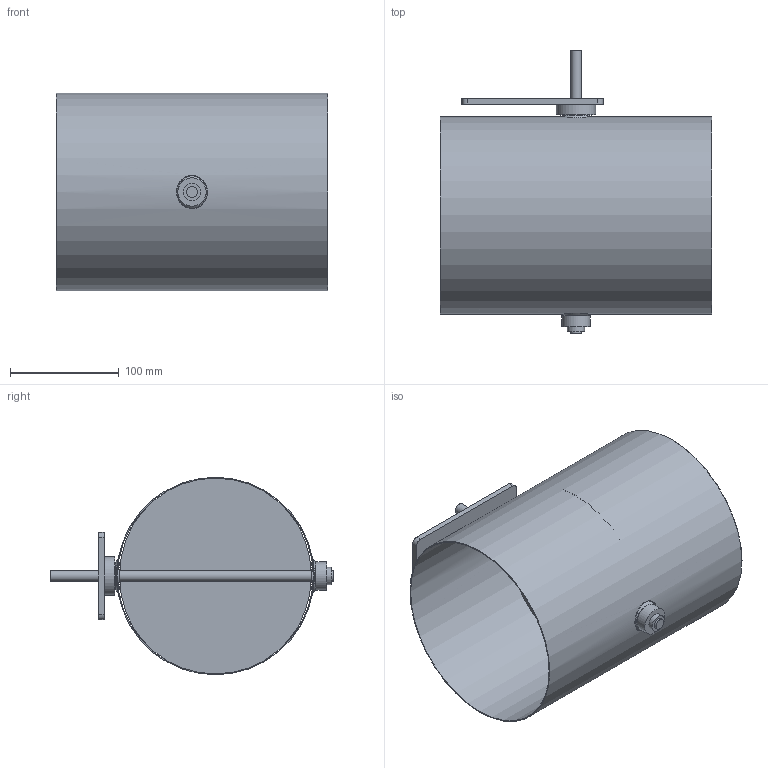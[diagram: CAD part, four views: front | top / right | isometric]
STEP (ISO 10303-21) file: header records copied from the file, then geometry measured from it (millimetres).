
FILE_DESCRIPTION(/* description */ (''),/* implementation_level */ '2;1');
FILE_NAME(/* name */ 'AA126-80B__180_L250_Belimo_Typ_LM.stp',/* time_stamp */ '2017-12-06T14:03:13+01:00',/* author */ (''),/* organization */ (''),/* preprocessor_version */ 'ST-DEVELOPER v11',/* originating_system */ 'SIEMENS UGS NX 6.0',/* authorisation */ '');
FILE_SCHEMA (('CONFIG_CONTROL_DESIGN'));
Length unit declared in the file: millimetre
Products named in the file (1): gars18E2j24f
Bounding box: 250 x 261 x 181.6 mm (x, y, z)
Volume: 227703.6 mm3; surface area: 375962.5 mm2
Topology: 8 solids, 8 shells, 66 faces, 142 edges, 98 vertices
Faces by surface type: plane 28, cylinder 26, cone 4, bspline 4, torus 4
Full cylindrical faces by diameter (mm): 4.1 x4, 10 x3, 15 x3, 15.85 x2, 16 x2, 24 x2, 26 x1, 36 x1, 180 x1, 181.6 x1
Entity records: 2194 total; most frequent: CARTESIAN_POINT 841, DIRECTION 270, ORIENTED_EDGE 184, EDGE_LOOP 128, AXIS2_PLACEMENT_3D 123, FACE_BOUND 114, EDGE_CURVE 92, VERTEX_POINT 80
